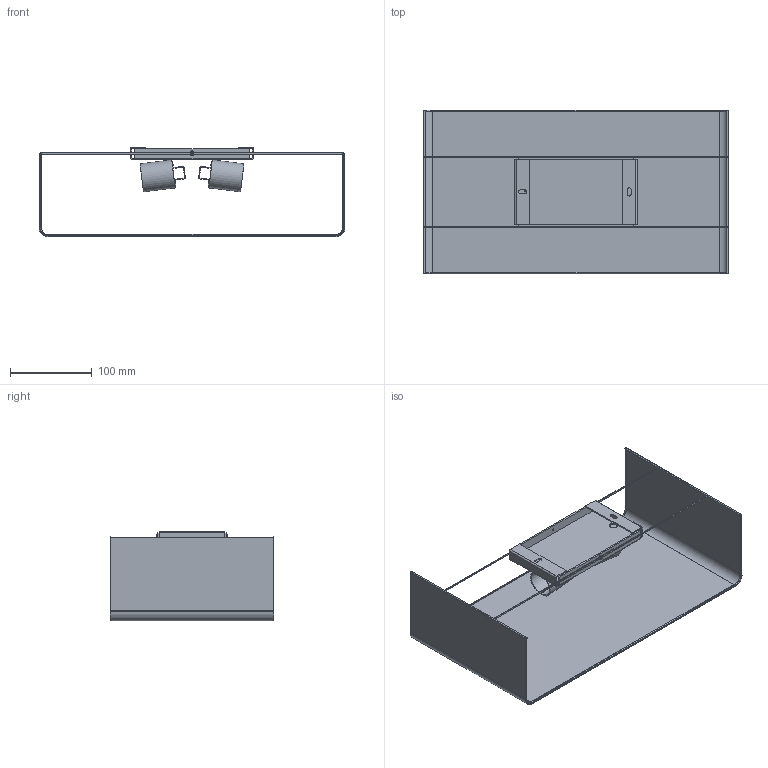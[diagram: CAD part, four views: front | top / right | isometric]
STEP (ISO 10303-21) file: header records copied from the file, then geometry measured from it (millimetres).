
FILE_DESCRIPTION(/* description */ (''),/* implementation_level */ '2;1');
FILE_NAME(/* name */ '66401-107.step',/* time_stamp */ '2024-06-28T13:48:50+02:00',/* author */ ('RenataManzini'),/* organization */ (''),/* preprocessor_version */ 'ST-DEVELOPER v20',/* originating_system */ 'AutoCAD Mechanical',/* authorisation */ '');
FILE_SCHEMA (('AUTOMOTIVE_DESIGN { 1 0 10303 214 3 1 1 }'));
Length unit declared in the file: millimetre
Products named in the file (3): Product; base_2L - BASE-482623-_3D_; pantalla_107-108 - PANTALLA-481693-_3D_
Assembly tree (2 placements, depth 2):
  Product
    base_2L - BASE-482623-_3D_
    pantalla_107-108 - PANTALLA-481693-_3D_
Bounding box: 373.83 x 200 x 109.58 mm (x, y, z)
Volume: 173898.1 mm3; surface area: 303673.4 mm2
Topology: 10 solids, 14 shells, 178 faces, 445 edges, 289 vertices
Faces by surface type: plane 96, cylinder 74, torus 8
Entity records: 6127 total; most frequent: CARTESIAN_POINT 1750, DIRECTION 904, ORIENTED_EDGE 860, EDGE_CURVE 442, AXIS2_PLACEMENT_3D 308, LINE 288, VECTOR 288, VERTEX_POINT 284
